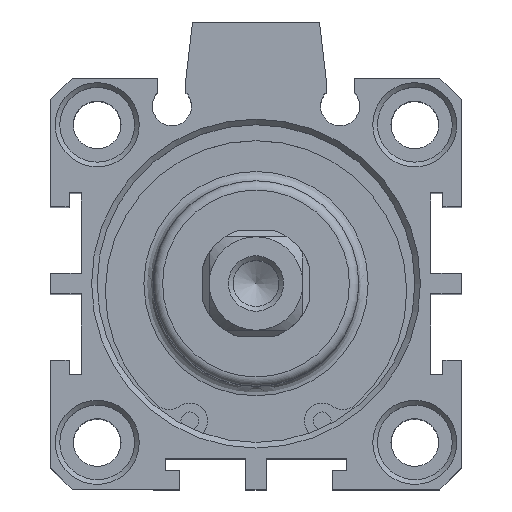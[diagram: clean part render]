
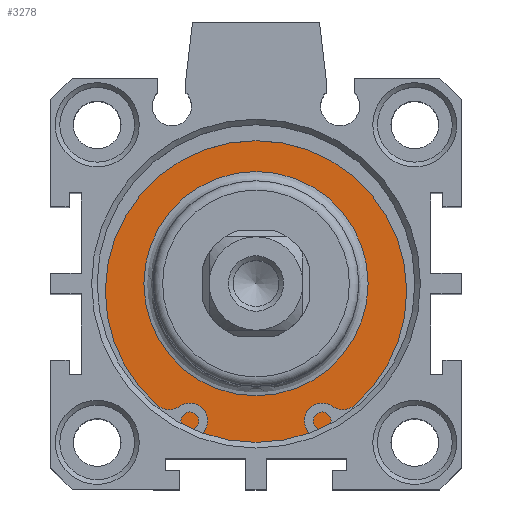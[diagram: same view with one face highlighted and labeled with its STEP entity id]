
A CAD part, top view. The second image highlights one B-rep face of the part: STEP entity #3278.
In plain terms, the highlighted planar face has unit normal (0, 0, 1).
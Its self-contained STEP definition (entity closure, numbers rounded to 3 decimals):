
#3227=CARTESIAN_POINT('',(-3.726,11.88,50.3));
#3228=VERTEX_POINT('',#3227);
#3229=CARTESIAN_POINT('',(-3.726,-0.12,50.3));
#3230=DIRECTION('',(0.0,0.0,1.0));
#3231=DIRECTION('',(0.0,-1.0,0.0));
#3232=AXIS2_PLACEMENT_3D('',#3229,#3230,#3231);
#3233=CIRCLE('',#3232,12.);
#3234=EDGE_CURVE('',#3228,#3228,#3233,.T.);
#3259=CARTESIAN_POINT('',(-3.726,13.88,50.3));
#3260=DIRECTION('',(0.0,0.0,1.0));
#3261=DIRECTION('',(1.0,0.0,0.0));
#3262=AXIS2_PLACEMENT_3D('',#3259,#3260,#3261);
#3263=PLANE('',#3262);
#3264=CARTESIAN_POINT('',(-3.726,16.88,50.3));
#3265=VERTEX_POINT('',#3264);
#3266=CARTESIAN_POINT('',(-3.726,-0.12,50.3));
#3267=DIRECTION('',(0.0,0.0,-1.0));
#3268=DIRECTION('',(0.0,1.0,0.0));
#3269=AXIS2_PLACEMENT_3D('',#3266,#3267,#3268);
#3270=CIRCLE('',#3269,17.0);
#3271=EDGE_CURVE('',#3265,#3265,#3270,.T.);
#3272=ORIENTED_EDGE('',*,*,#3271,.F.);
#3273=EDGE_LOOP('',(#3272));
#3274=FACE_OUTER_BOUND('',#3273,.T.);
#3275=ORIENTED_EDGE('',*,*,#3234,.F.);
#3276=EDGE_LOOP('',(#3275));
#3277=FACE_BOUND('',#3276,.T.);
#3278=ADVANCED_FACE('',(#3274,#3277),#3263,.T.);
